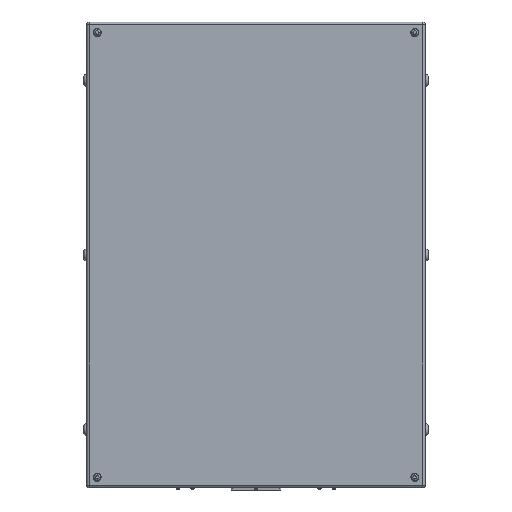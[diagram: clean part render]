
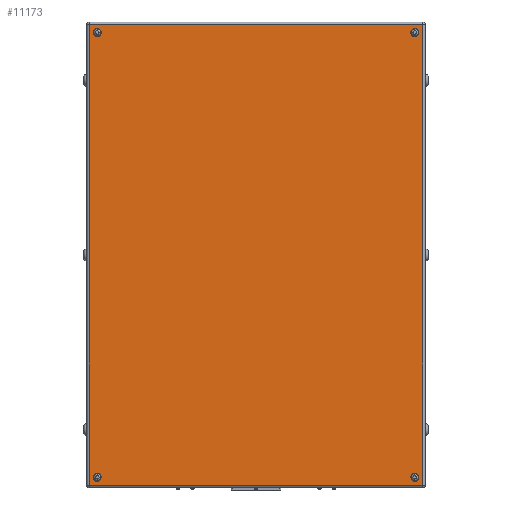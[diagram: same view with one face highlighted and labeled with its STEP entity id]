
A CAD part, front view. The second image highlights one B-rep face of the part: STEP entity #11173.
In plain terms, the highlighted planar face has unit normal (0, -1, 0).
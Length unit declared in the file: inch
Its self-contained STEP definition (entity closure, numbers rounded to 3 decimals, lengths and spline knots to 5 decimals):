
#277 = CARTESIAN_POINT ( 'NONE',  ( -15., -9., -21. ) ) ;
#296 = VERTEX_POINT ( 'NONE', #6267 ) ;
#305 = EDGE_CURVE ( 'NONE', #2418, #3452, #6177, .T. ) ;
#372 = DIRECTION ( 'NONE',  ( 0., -1., 0. ) ) ;
#529 = CARTESIAN_POINT ( 'NONE',  ( 15.734, -9., 21.734 ) ) ;
#661 = CIRCLE ( 'NONE', #1630, 0.37402 ) ;
#925 = DIRECTION ( 'NONE',  ( 1., 0., 0. ) ) ;
#1033 = CARTESIAN_POINT ( 'NONE',  ( 15., -9., 21. ) ) ;
#1265 = DIRECTION ( 'NONE',  ( 0., -1., 0. ) ) ;
#1374 = CIRCLE ( 'NONE', #11925, 0.37402 ) ;
#1412 = ORIENTED_EDGE ( 'NONE', *, *, #11877, .F. ) ;
#1565 = CARTESIAN_POINT ( 'NONE',  ( 15., -9., 21.37402 ) ) ;
#1630 = AXIS2_PLACEMENT_3D ( 'NONE', #277, #1265, #5961 ) ;
#1721 = VERTEX_POINT ( 'NONE', #13369 ) ;
#1789 = FACE_BOUND ( 'NONE', #6706, .T. ) ;
#1810 = DIRECTION ( 'NONE',  ( 0., -1., 0. ) ) ;
#2208 = DIRECTION ( 'NONE',  ( 0., 0., 1. ) ) ;
#2418 = VERTEX_POINT ( 'NONE', #12425 ) ;
#2519 = LINE ( 'NONE', #11534, #9994 ) ;
#2663 = EDGE_CURVE ( 'NONE', #4143, #4798, #12407, .T. ) ;
#2855 = PLANE ( 'NONE',  #14398 ) ;
#2997 = FACE_BOUND ( 'NONE', #11999, .T. ) ;
#3227 = DIRECTION ( 'NONE',  ( 0., -1., 0. ) ) ;
#3452 = VERTEX_POINT ( 'NONE', #9500 ) ;
#3577 = DIRECTION ( 'NONE',  ( 0., -1., 0. ) ) ;
#3757 = EDGE_CURVE ( 'NONE', #11976, #296, #1374, .T. ) ;
#4019 = AXIS2_PLACEMENT_3D ( 'NONE', #11841, #12873, #8555 ) ;
#4143 = VERTEX_POINT ( 'NONE', #5631 ) ;
#4246 = VECTOR ( 'NONE', #8912, 39.37008 ) ;
#4323 = CARTESIAN_POINT ( 'NONE',  ( -15.734, -9., -21.734 ) ) ;
#4436 = CARTESIAN_POINT ( 'NONE',  ( 0., -9., 0. ) ) ;
#4710 = EDGE_LOOP ( 'NONE', ( #6797, #13050 ) ) ;
#4798 = VERTEX_POINT ( 'NONE', #8628 ) ;
#4912 = VECTOR ( 'NONE', #925, 39.37008 ) ;
#4916 = AXIS2_PLACEMENT_3D ( 'NONE', #10033, #5554, #2208 ) ;
#5102 = DIRECTION ( 'NONE',  ( 0., -1., 0. ) ) ;
#5396 = CARTESIAN_POINT ( 'NONE',  ( -15., -9., 21. ) ) ;
#5554 = DIRECTION ( 'NONE',  ( 0., -1., 0. ) ) ;
#5584 = DIRECTION ( 'NONE',  ( 0., -1., 0. ) ) ;
#5608 = EDGE_LOOP ( 'NONE', ( #6007, #6863 ) ) ;
#5631 = CARTESIAN_POINT ( 'NONE',  ( -15.734, -9., -21.734 ) ) ;
#5660 = DIRECTION ( 'NONE',  ( 0., 0., 1. ) ) ;
#5703 = VERTEX_POINT ( 'NONE', #8320 ) ;
#5880 = ORIENTED_EDGE ( 'NONE', *, *, #305, .F. ) ;
#5961 = DIRECTION ( 'NONE',  ( 0., 0., -1. ) ) ;
#6007 = ORIENTED_EDGE ( 'NONE', *, *, #11751, .F. ) ;
#6088 = EDGE_CURVE ( 'NONE', #11094, #1721, #2519, .T. ) ;
#6093 = CIRCLE ( 'NONE', #8723, 0.37402 ) ;
#6177 = CIRCLE ( 'NONE', #14483, 0.37402 ) ;
#6216 = EDGE_CURVE ( 'NONE', #1721, #4143, #9871, .T. ) ;
#6256 = CARTESIAN_POINT ( 'NONE',  ( -15., -9., -20.62598 ) ) ;
#6267 = CARTESIAN_POINT ( 'NONE',  ( -15., -9., 21.37402 ) ) ;
#6567 = ORIENTED_EDGE ( 'NONE', *, *, #13062, .F. ) ;
#6669 = VERTEX_POINT ( 'NONE', #6256 ) ;
#6706 = EDGE_LOOP ( 'NONE', ( #5880, #1412 ) ) ;
#6773 = DIRECTION ( 'NONE',  ( 0., 0., -1. ) ) ;
#6797 = ORIENTED_EDGE ( 'NONE', *, *, #11203, .F. ) ;
#6863 = ORIENTED_EDGE ( 'NONE', *, *, #3757, .F. ) ;
#7001 = CIRCLE ( 'NONE', #12488, 0.37402 ) ;
#7117 = DIRECTION ( 'NONE',  ( -1., 0., 0. ) ) ;
#7186 = CARTESIAN_POINT ( 'NONE',  ( 15., -9., 21. ) ) ;
#7303 = CIRCLE ( 'NONE', #4916, 0.37402 ) ;
#8320 = CARTESIAN_POINT ( 'NONE',  ( 15., -9., 20.62598 ) ) ;
#8322 = CIRCLE ( 'NONE', #4019, 0.37402 ) ;
#8376 = ORIENTED_EDGE ( 'NONE', *, *, #14633, .T. ) ;
#8496 = FACE_BOUND ( 'NONE', #5608, .T. ) ;
#8555 = DIRECTION ( 'NONE',  ( 0., 0., -1. ) ) ;
#8628 = CARTESIAN_POINT ( 'NONE',  ( 15.734, -9., -21.734 ) ) ;
#8723 = AXIS2_PLACEMENT_3D ( 'NONE', #1033, #3227, #5660 ) ;
#8792 = FACE_BOUND ( 'NONE', #4710, .T. ) ;
#8906 = EDGE_CURVE ( 'NONE', #5703, #10208, #7001, .T. ) ;
#8912 = DIRECTION ( 'NONE',  ( 0., 0., -1. ) ) ;
#8956 = ORIENTED_EDGE ( 'NONE', *, *, #6088, .T. ) ;
#9208 = ORIENTED_EDGE ( 'NONE', *, *, #6216, .T. ) ;
#9356 = CARTESIAN_POINT ( 'NONE',  ( -15., -9., 20.62598 ) ) ;
#9358 = DIRECTION ( 'NONE',  ( 0., 0., 1. ) ) ;
#9447 = CIRCLE ( 'NONE', #10397, 0.37402 ) ;
#9500 = CARTESIAN_POINT ( 'NONE',  ( 15., -9., -21.37402 ) ) ;
#9552 = DIRECTION ( 'NONE',  ( 0., 0., 1. ) ) ;
#9680 = CARTESIAN_POINT ( 'NONE',  ( 15.734, -9., 21.734 ) ) ;
#9812 = VERTEX_POINT ( 'NONE', #10086 ) ;
#9871 = LINE ( 'NONE', #4323, #4246 ) ;
#9994 = VECTOR ( 'NONE', #7117, 39.37008 ) ;
#10033 = CARTESIAN_POINT ( 'NONE',  ( 15., -9., -21. ) ) ;
#10086 = CARTESIAN_POINT ( 'NONE',  ( -15., -9., -21.37402 ) ) ;
#10208 = VERTEX_POINT ( 'NONE', #1565 ) ;
#10320 = CARTESIAN_POINT ( 'NONE',  ( 15.734, -9., -21.734 ) ) ;
#10397 = AXIS2_PLACEMENT_3D ( 'NONE', #5396, #5102, #14189 ) ;
#10827 = CARTESIAN_POINT ( 'NONE',  ( 15., -9., -21. ) ) ;
#10833 = CARTESIAN_POINT ( 'NONE',  ( -15., -9., 21. ) ) ;
#11094 = VERTEX_POINT ( 'NONE', #9680 ) ;
#11173 = ADVANCED_FACE ( 'NONE', ( #8792, #1789, #8496, #2997, #13120 ), #2855, .T. ) ;
#11203 = EDGE_CURVE ( 'NONE', #10208, #5703, #6093, .T. ) ;
#11534 = CARTESIAN_POINT ( 'NONE',  ( -15.734, -9., 21.734 ) ) ;
#11710 = EDGE_LOOP ( 'NONE', ( #8376, #8956, #9208, #12801 ) ) ;
#11751 = EDGE_CURVE ( 'NONE', #296, #11976, #9447, .T. ) ;
#11841 = CARTESIAN_POINT ( 'NONE',  ( -15., -9., -21. ) ) ;
#11877 = EDGE_CURVE ( 'NONE', #3452, #2418, #7303, .T. ) ;
#11925 = AXIS2_PLACEMENT_3D ( 'NONE', #10833, #1810, #14238 ) ;
#11976 = VERTEX_POINT ( 'NONE', #9356 ) ;
#11999 = EDGE_LOOP ( 'NONE', ( #6567, #13985 ) ) ;
#12094 = DIRECTION ( 'NONE',  ( 0., 0., 1. ) ) ;
#12407 = LINE ( 'NONE', #10320, #4912 ) ;
#12425 = CARTESIAN_POINT ( 'NONE',  ( 15., -9., -20.62598 ) ) ;
#12488 = AXIS2_PLACEMENT_3D ( 'NONE', #7186, #3577, #9358 ) ;
#12801 = ORIENTED_EDGE ( 'NONE', *, *, #2663, .T. ) ;
#12873 = DIRECTION ( 'NONE',  ( 0., -1., 0. ) ) ;
#13050 = ORIENTED_EDGE ( 'NONE', *, *, #8906, .F. ) ;
#13062 = EDGE_CURVE ( 'NONE', #6669, #9812, #661, .T. ) ;
#13120 = FACE_OUTER_BOUND ( 'NONE', #11710, .T. ) ;
#13369 = CARTESIAN_POINT ( 'NONE',  ( -15.734, -9., 21.734 ) ) ;
#13967 = EDGE_CURVE ( 'NONE', #9812, #6669, #8322, .T. ) ;
#13985 = ORIENTED_EDGE ( 'NONE', *, *, #13967, .F. ) ;
#14189 = DIRECTION ( 'NONE',  ( 0., 0., -1. ) ) ;
#14238 = DIRECTION ( 'NONE',  ( 0., 0., -1. ) ) ;
#14378 = LINE ( 'NONE', #529, #14621 ) ;
#14398 = AXIS2_PLACEMENT_3D ( 'NONE', #4436, #5584, #6773 ) ;
#14483 = AXIS2_PLACEMENT_3D ( 'NONE', #10827, #372, #9552 ) ;
#14621 = VECTOR ( 'NONE', #12094, 39.37008 ) ;
#14633 = EDGE_CURVE ( 'NONE', #4798, #11094, #14378, .T. ) ;
